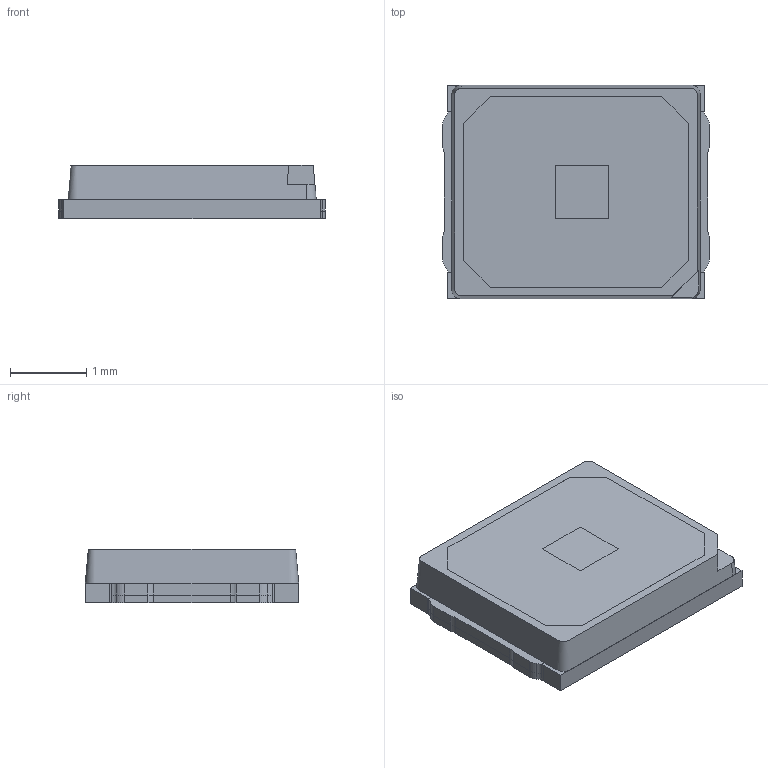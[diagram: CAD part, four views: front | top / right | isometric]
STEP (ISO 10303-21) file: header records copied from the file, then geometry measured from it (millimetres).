
FILE_DESCRIPTION (( 'STEP AP214' ), '1' );
FILE_NAME ('LWH-02.STEP', '2025-04-18T03:52:21', ( '' ), ( '' ), 'SwSTEP 2.0', 'SolidWorks 2022', '' );
FILE_SCHEMA (( 'AUTOMOTIVE_DESIGN' ));
Length unit declared in the file: millimetre
Products named in the file (1): LWH-02
Bounding box: 3.5 x 2.8 x 0.7 mm (x, y, z)
Volume: 6.4 mm3; surface area: 64 mm2
Topology: 8 solids, 8 shells, 250 faces, 707 edges, 475 vertices
Faces by surface type: plane 140, cylinder 108, bspline 2
Entity records: 8618 total; most frequent: CARTESIAN_POINT 1669, ORIENTED_EDGE 1414, DIRECTION 1404, EDGE_CURVE 707, VERTEX_POINT 475, VECTOR 474, LINE 474, AXIS2_PLACEMENT_3D 465
